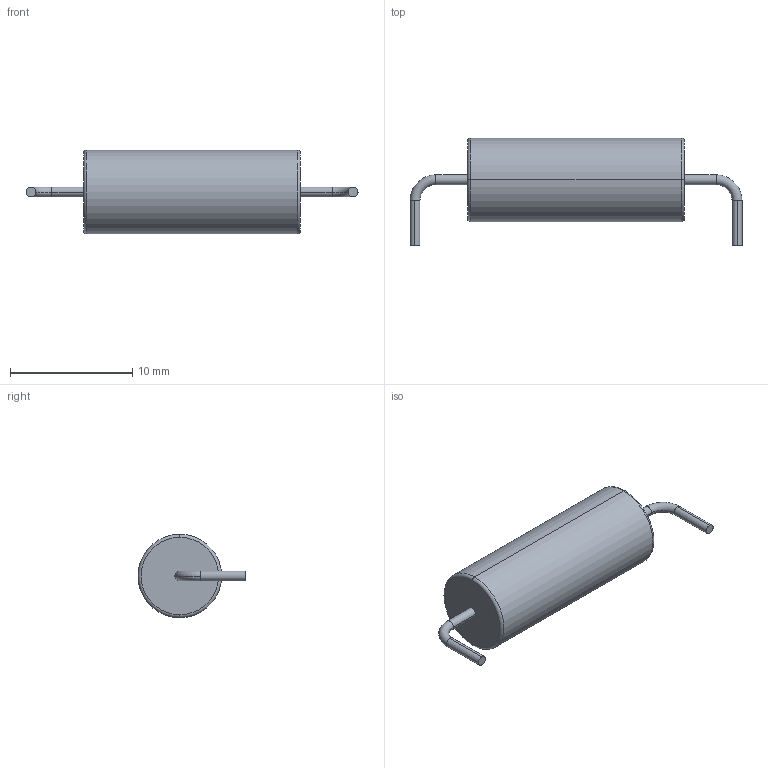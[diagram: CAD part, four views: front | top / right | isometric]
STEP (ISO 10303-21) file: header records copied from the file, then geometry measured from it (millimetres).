
FILE_DESCRIPTION (( 'STEP AP214' ), '1' );
FILE_NAME ( 'INDAD2640W81L1778D685.STEP', '2021-10-06T06:49:12', ( '' ), ( '' ), '', '©2017 PCB Libraries, Inc.', '' );
FILE_SCHEMA (( 'AUTOMOTIVE_DESIGN' ));
Length unit declared in the file: millimetre
Products named in the file (1): INDAD2640W81L1778D685
Bounding box: 27.21 x 8.85 x 6.85 mm (x, y, z)
Volume: 664 mm3; surface area: 499.7 mm2
Topology: 3 solids, 3 shells, 24 faces, 46 edges, 28 vertices
Faces by surface type: cylinder 10, torus 8, plane 6
Entity records: 742 total; most frequent: DIRECTION 132, CARTESIAN_POINT 99, ORIENTED_EDGE 92, AXIS2_PLACEMENT_3D 61, EDGE_CURVE 46, CIRCLE 36, VERTEX_POINT 28, STYLED_ITEM 28
